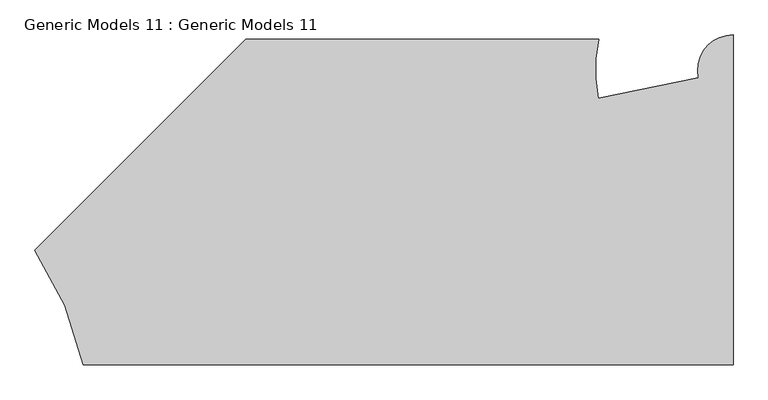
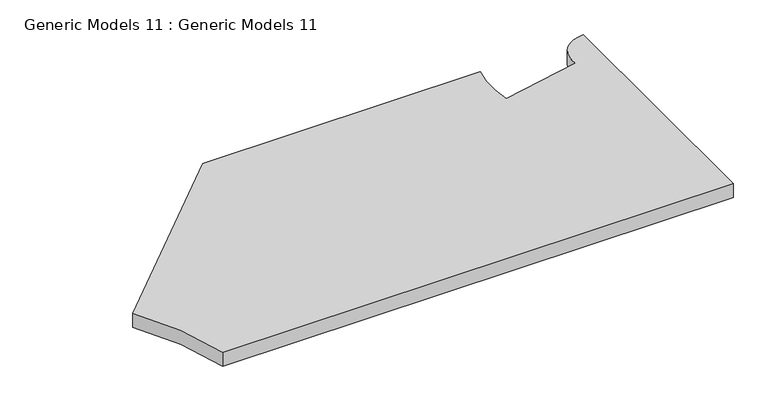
"""IFC4 building model written with IfcOpenShell, lengths in millimetres: proxy geometry, Generic Models 11 : Generic Models 11."""

from ifc_helpers import new_model, si_unit, point, frame, frame_2d, origin, place, context, project, spatial, polyline, circle_curve, trimmed, segment, composite_curve, outline, extrude, source, transform, mapped, element, save


def generic_models_11_generic_models_11_a65f2bc0(model_context):
    return source(origin(), model_context, "Body", "SweptSolid", [
        extrude(outline(composite_curve([segment(polyline([(41081.8405612, 32268.3257143), (41081.8405612, 28793.7215248), (34241.3440143, 28793.7215248)]), True, "CONTINUOUS"), segment(trimmed(circle_curve(frame_2d((30914.1830624, 28093.7215248)), 3400.0), [point((34241.3440143, 28793.7215248))], [point((33730.4615621, 29998.603519))], True, "CARTESIAN"), True, "CONTINUOUS"), segment(polyline([(33730.4615621, 29998.603519), (35952.3355956, 32220.4775525), (39669.0386031, 32220.4775525)]), True, "CONTINUOUS"), segment(trimmed(circle_curve(frame_2d((41081.7428342, 31893.725727)), 1450.0), [point((39669.0386031, 32220.4775525))], [point((39661.3401293, 31602.2533341))], True, "CARTESIAN"), True, "CONTINUOUS"), segment(polyline([(39661.3401293, 31602.2533341), (40714.7891423, 31818.4253419)]), True, "CONTINUOUS"), segment(trimmed(circle_curve(frame_2d((41081.7428342, 31893.725727)), 374.6), [point((40714.7891423, 31818.4253419))], [point((41081.8405612, 32268.3257143))], False, "CARTESIAN"), True, "CONTINUOUS")], self_intersect=False)), frame((0.0, 0.0, 3717.6777234), z_axis=(0.0, 0.0, 1.0), x_axis=(1.0, 0.0, 0.0)), (0.0, 0.0, 1.0), 200.0),
    ])


if __name__ == "__main__":
    model = new_model("IFC4")
    model_context = context("Model", 3, world=origin())
    ifc_project = project(units=[si_unit("LENGTHUNIT", "METRE", prefix="MILLI")], contexts=[model_context])
    site = spatial("IfcSite", under=ifc_project)
    building = spatial("IfcBuilding", under=site)
    placement = place(None, origin())
    generic_models_11_generic_models_11_shape = generic_models_11_generic_models_11_a65f2bc0(model_context)
    element("IfcBuildingElementProxy", 1, Name="Generic Models 11 : Generic Models 11", ObjectType="Generic Models 11 : Generic Models 11", at=placement, inside=building, context=model_context, shape_type="MappedRepresentation", body=[
        mapped(generic_models_11_generic_models_11_shape, transform((0.0, 0.0, 0.0), x_axis=(1.0, 0.0, 0.0), y_axis=(0.0, 1.0, 0.0), z_axis=(0.0, 0.0, 1.0))),
    ])
    save(model, "model.ifc")
